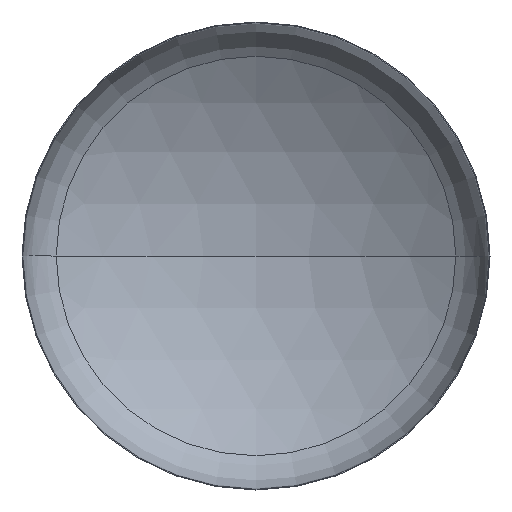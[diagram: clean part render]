
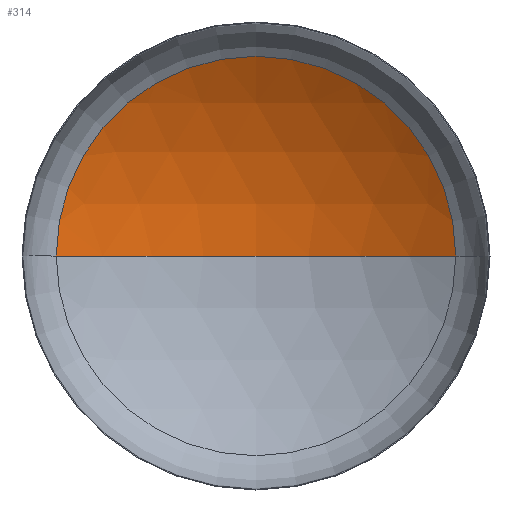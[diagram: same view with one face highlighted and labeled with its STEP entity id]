
A CAD part, front view. The second image highlights one B-rep face of the part: STEP entity #314.
In plain terms, the highlighted spherical face has radius 6400 mm.
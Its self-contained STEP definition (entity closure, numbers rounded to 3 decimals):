
#15 = VERTEX_POINT ( 'NONE', #292 ) ;
#20 = AXIS2_PLACEMENT_3D ( 'NONE', #141, #137, #230 ) ;
#43 = CARTESIAN_POINT ( 'NONE',  ( 0., 1080.363, 0. ) ) ;
#47 = SPHERICAL_SURFACE ( 'NONE', #20, 6400. ) ;
#51 = DIRECTION ( 'NONE',  ( 1., 0., 0. ) ) ;
#66 = ORIENTED_EDGE ( 'NONE', *, *, #192, .T. ) ;
#75 = AXIS2_PLACEMENT_3D ( 'NONE', #223, #220, #222 ) ;
#77 = AXIS2_PLACEMENT_3D ( 'NONE', #101, #349, #188 ) ;
#78 = AXIS2_PLACEMENT_3D ( 'NONE', #43, #163, #51 ) ;
#95 = CIRCLE ( 'NONE', #75, 6400. ) ;
#101 = CARTESIAN_POINT ( 'NONE',  ( 0., -4332.909, 0. ) ) ;
#124 = EDGE_LOOP ( 'NONE', ( #150, #126, #66 ) ) ;
#126 = ORIENTED_EDGE ( 'NONE', *, *, #197, .T. ) ;
#137 = DIRECTION ( 'NONE',  ( 0., 0., -1. ) ) ;
#141 = CARTESIAN_POINT ( 'NONE',  ( 0., -4332.909, 0. ) ) ;
#150 = ORIENTED_EDGE ( 'NONE', *, *, #202, .F. ) ;
#159 = VERTEX_POINT ( 'NONE', #341 ) ;
#163 = DIRECTION ( 'NONE',  ( 0., -1., 0. ) ) ;
#164 = CARTESIAN_POINT ( 'NONE',  ( 3414.159, 1080.363, 0. ) ) ;
#188 = DIRECTION ( 'NONE',  ( -1., 0., 0. ) ) ;
#192 = EDGE_CURVE ( 'NONE', #224, #15, #404, .T. ) ;
#197 = EDGE_CURVE ( 'NONE', #159, #224, #280, .T. ) ;
#202 = EDGE_CURVE ( 'NONE', #159, #15, #95, .T. ) ;
#220 = DIRECTION ( 'NONE',  ( 0., 0., 1. ) ) ;
#222 = DIRECTION ( 'NONE',  ( 1., 0., 0. ) ) ;
#223 = CARTESIAN_POINT ( 'NONE',  ( 0., -4332.909, 0. ) ) ;
#224 = VERTEX_POINT ( 'NONE', #164 ) ;
#230 = DIRECTION ( 'NONE',  ( -1., 0., 0. ) ) ;
#264 = FACE_OUTER_BOUND ( 'NONE', #124, .T. ) ;
#280 = CIRCLE ( 'NONE', #77, 6400. ) ;
#292 = CARTESIAN_POINT ( 'NONE',  ( -3414.159, 1080.363, 0. ) ) ;
#314 = ADVANCED_FACE ( 'NONE', ( #264 ), #47, .F. ) ;
#341 = CARTESIAN_POINT ( 'NONE',  ( 0., 2067.091, 0. ) ) ;
#349 = DIRECTION ( 'NONE',  ( 0., 0., -1. ) ) ;
#404 = CIRCLE ( 'NONE', #78, 3414.159 ) ;
